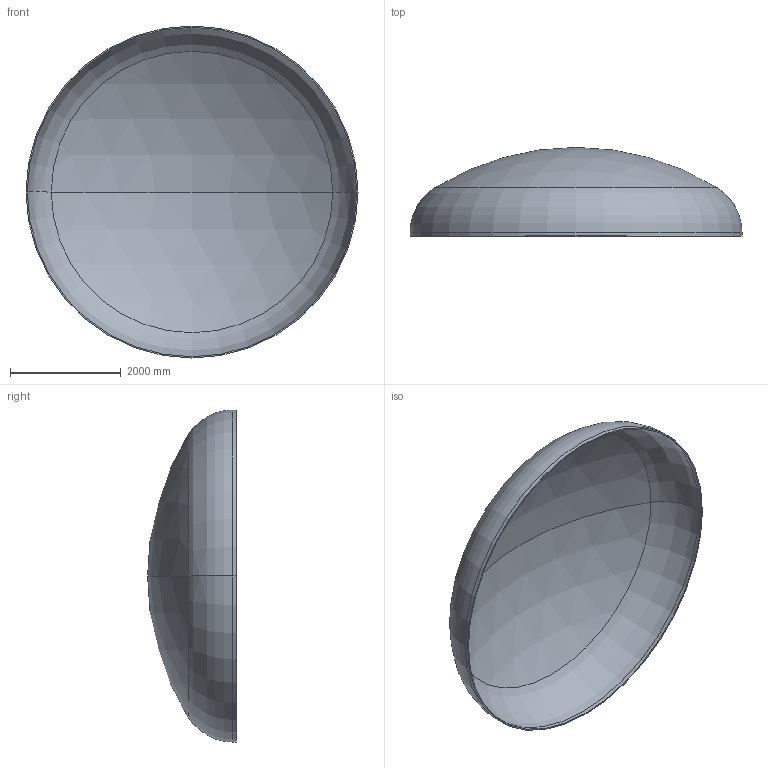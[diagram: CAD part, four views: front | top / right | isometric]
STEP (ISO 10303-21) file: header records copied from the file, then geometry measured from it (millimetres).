
FILE_DESCRIPTION (( 'STEP AP203' ), '1' );
FILE_NAME ('DIN 28013 Korbbogenform_-_Boden DIN 28013 - 6000 x 70 - I - s=22.step', '2016-07-04T10:36:08', ( '' ), ( '' ), 'SwSTEP 2.0', 'SolidWorks 2013', '' );
FILE_SCHEMA (( 'CONFIG_CONTROL_DESIGN' ));
Length unit declared in the file: millimetre
Products named in the file (1): DIN 28013 Korbbogenform_-_Boden DIN 28013 - 6000 x 70 - I - s=22
Bounding box: 6000 x 1605.54 x 6000 mm (x, y, z)
Volume: 886495366.1 mm3; surface area: 81004638.8 mm2
Topology: 1 solids, 1 shells, 13 faces, 24 edges, 14 vertices
Faces by surface type: torus 4, cylinder 4, sphere 4, plane 1
Entity records: 407 total; most frequent: DIRECTION 72, CARTESIAN_POINT 52, ORIENTED_EDGE 48, AXIS2_PLACEMENT_3D 34, EDGE_CURVE 24, CIRCLE 20, EDGE_LOOP 14, VERTEX_POINT 14
